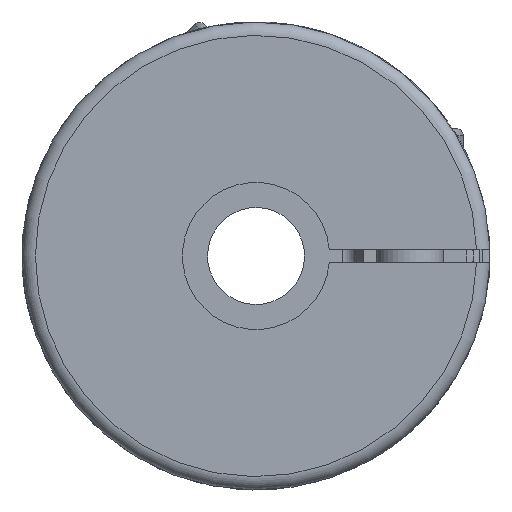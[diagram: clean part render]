
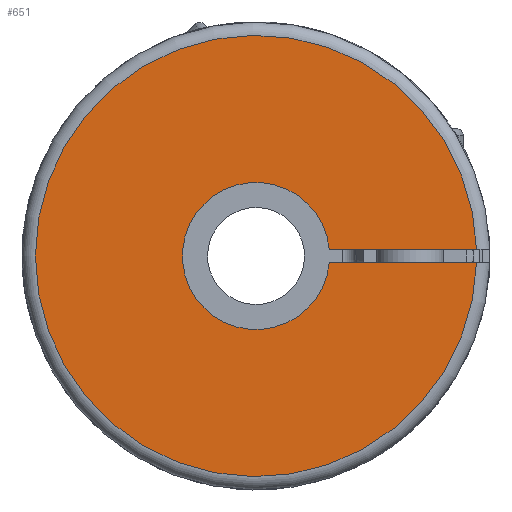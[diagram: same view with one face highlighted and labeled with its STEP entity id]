
A CAD part, left-side view. The second image highlights one B-rep face of the part: STEP entity #651.
In plain terms, the highlighted planar face has unit normal (-1, 0, 0).
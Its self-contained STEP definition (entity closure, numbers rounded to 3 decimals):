
#651 = ADVANCED_FACE( '', ( #1398 ), #1399, .T. );
#1398 = FACE_OUTER_BOUND( '', #2181, .T. );
#1399 = PLANE( '', #2182 );
#2181 = EDGE_LOOP( '', ( #4134, #4135, #4136, #4137 ) );
#2182 = AXIS2_PLACEMENT_3D( '', #4138, #4139, #4140 );
#4134 = ORIENTED_EDGE( '', *, *, #4476, .T. );
#4135 = ORIENTED_EDGE( '', *, *, #5087, .F. );
#4136 = ORIENTED_EDGE( '', *, *, #4982, .T. );
#4137 = ORIENTED_EDGE( '', *, *, #4991, .T. );
#4138 = CARTESIAN_POINT( '', ( -95.5, 0., 7.5 ) );
#4139 = DIRECTION( '', ( -1., 0., 0. ) );
#4140 = DIRECTION( '', ( 0., 0., 1. ) );
#4476 = EDGE_CURVE( '', #5352, #5350, #5353, .T. );
#4982 = EDGE_CURVE( '', #6158, #6159, #6160, .T. );
#4991 = EDGE_CURVE( '', #6159, #5352, #6170, .T. );
#5087 = EDGE_CURVE( '', #6158, #5350, #6288, .T. );
#5350 = VERTEX_POINT( '', #6778 );
#5352 = VERTEX_POINT( '', #6781 );
#5353 = LINE( '', #6782, #6783 );
#6158 = VERTEX_POINT( '', #8220 );
#6159 = VERTEX_POINT( '', #8221 );
#6160 = LINE( '', #8222, #8223 );
#6170 = CIRCLE( '', #8255, 33. );
#6288 = CIRCLE( '', #8408, 11. );
#6778 = CARTESIAN_POINT( '', ( -95.5, -10.954, -1. ) );
#6781 = CARTESIAN_POINT( '', ( -95.5, -32.985, -1. ) );
#6782 = CARTESIAN_POINT( '', ( -95.5, -34.986, -1. ) );
#6783 = VECTOR( '', #8829, 1000. );
#8220 = CARTESIAN_POINT( '', ( -95.5, -10.954, 1. ) );
#8221 = CARTESIAN_POINT( '', ( -95.5, -32.985, 1. ) );
#8222 = CARTESIAN_POINT( '', ( -95.5, -7.433, 1. ) );
#8223 = VECTOR( '', #9500, 1000. );
#8255 = AXIS2_PLACEMENT_3D( '', #9509, #9510, #9511 );
#8408 = AXIS2_PLACEMENT_3D( '', #9646, #9647, #9648 );
#8829 = DIRECTION( '', ( 0., 1., 0. ) );
#9500 = DIRECTION( '', ( 0., -1., 0. ) );
#9509 = CARTESIAN_POINT( '', ( -95.5, 0., 0. ) );
#9510 = DIRECTION( '', ( -1., 0., 0. ) );
#9511 = DIRECTION( '', ( 0., 0., 1. ) );
#9646 = CARTESIAN_POINT( '', ( -95.5, 0., 0. ) );
#9647 = DIRECTION( '', ( -1., 0., 0. ) );
#9648 = DIRECTION( '', ( 0., -1., 0. ) );
